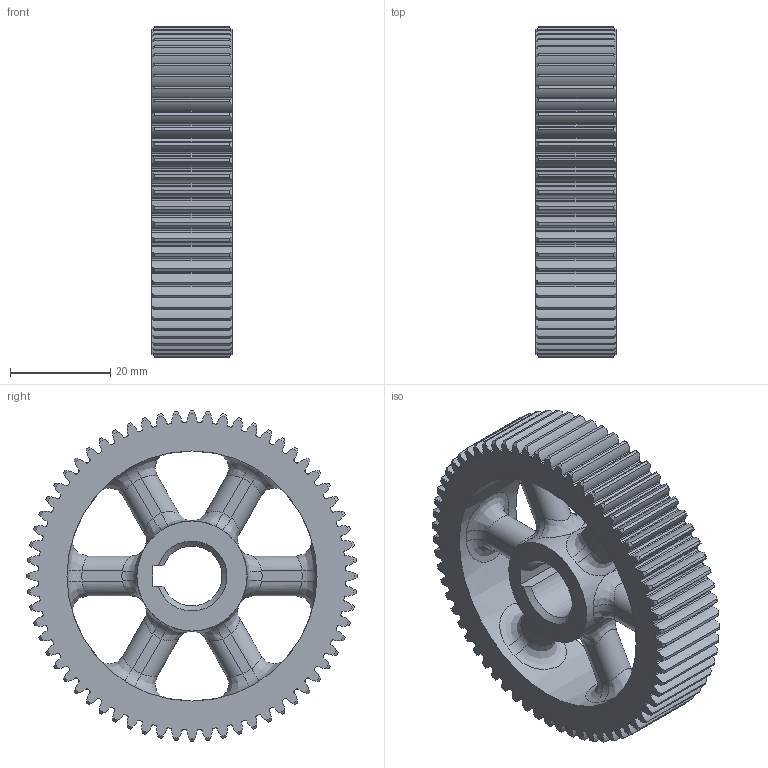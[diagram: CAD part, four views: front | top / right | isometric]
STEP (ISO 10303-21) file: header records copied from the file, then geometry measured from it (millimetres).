
FILE_DESCRIPTION(/* description */ (''),/* implementation_level */ '2;1');
FILE_NAME(/* name */ '',/* time_stamp */ '2026-03-04T10:07:26+09:00',/* author */ ('jhkim'),/* organization */ (''),/* preprocessor_version */ 'ST-DEVELOPER v20.1',/* originating_system */ 'Autodesk Inventor 2026',/* authorisation */ '');
FILE_SCHEMA (('AUTOMOTIVE_DESIGN { 1 0 10303 214 3 1 1 }'));
Length unit declared in the file: millimetre
Products named in the file (1): 스퍼 기어
Bounding box: 16 x 66 x 66 mm (x, y, z)
Volume: 27820.8 mm3; surface area: 14678.2 mm2
Topology: 1 solids, 1 shells, 597 faces, 1746 edges, 1146 vertices
Faces by surface type: cylinder 400, cone 130, bspline 24, torus 24, plane 19
Full cylindrical faces by diameter (mm): 22 x2, 50 x1
Entity records: 22187 total; most frequent: CARTESIAN_POINT 6030, DIRECTION 3578, ORIENTED_EDGE 3492, EDGE_CURVE 1746, AXIS2_PLACEMENT_3D 1578, VERTEX_POINT 1146, CIRCLE 1004, EDGE_LOOP 606
